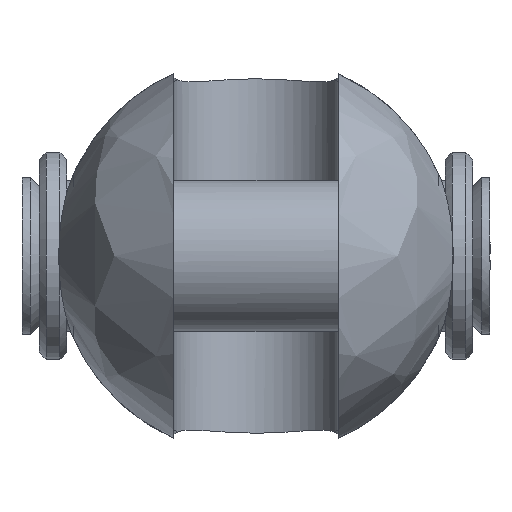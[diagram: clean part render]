
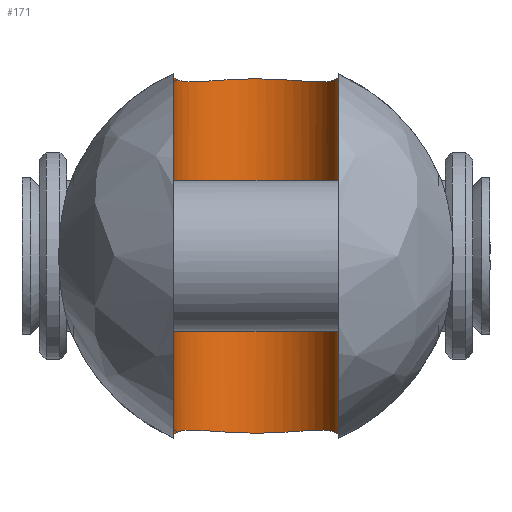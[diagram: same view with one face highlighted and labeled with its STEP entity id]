
A CAD part, left-side view. The second image highlights one B-rep face of the part: STEP entity #171.
In plain terms, the highlighted cylindrical face has radius 6 mm (diameter 12 mm), a partial arc.
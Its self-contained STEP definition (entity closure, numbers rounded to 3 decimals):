
#171=ADVANCED_FACE('',(#312),#2366,.F.);
#312=FACE_OUTER_BOUND('',#471,.T.);
#471=EDGE_LOOP('',(#1120,#1121,#1122,#1123,#1124,#1125,#1126,#1127));
#1120=ORIENTED_EDGE('',*,*,#1568,.F.);
#1121=ORIENTED_EDGE('',*,*,#1569,.F.);
#1122=ORIENTED_EDGE('',*,*,#1585,.F.);
#1123=ORIENTED_EDGE('',*,*,#1570,.F.);
#1124=ORIENTED_EDGE('',*,*,#1571,.F.);
#1125=ORIENTED_EDGE('',*,*,#1572,.F.);
#1126=ORIENTED_EDGE('',*,*,#1588,.F.);
#1127=ORIENTED_EDGE('',*,*,#1567,.F.);
#1567=EDGE_CURVE('',#2233,#2234,#1759,.T.);
#1568=EDGE_CURVE('',#2235,#2233,#1760,.T.);
#1569=EDGE_CURVE('',#2236,#2235,#1761,.T.);
#1570=EDGE_CURVE('',#2238,#2237,#1762,.T.);
#1571=EDGE_CURVE('',#2239,#2238,#1763,.T.);
#1572=EDGE_CURVE('',#2240,#2239,#1764,.T.);
#1585=EDGE_CURVE('',#2237,#2236,#1769,.T.);
#1588=EDGE_CURVE('',#2234,#2240,#1770,.T.);
#1759=B_SPLINE_CURVE_WITH_KNOTS('',3,(#5866,#5867,#5868,#5869),
 .UNSPECIFIED.,.F.,.F.,(4,4),(-1.975,0.),.UNSPECIFIED.);
#1760=B_SPLINE_CURVE_WITH_KNOTS('',1,(#5870,#5871),.UNSPECIFIED.,.F.,.F.,
(2,2),(-26.101,0.),.UNSPECIFIED.);
#1761=B_SPLINE_CURVE_WITH_KNOTS('',3,(#5872,#5873,#5874,#5875),
 .UNSPECIFIED.,.F.,.F.,(4,4),(-1.975,0.),.UNSPECIFIED.);
#1762=B_SPLINE_CURVE_WITH_KNOTS('',3,(#5876,#5877,#5878,#5879),
 .UNSPECIFIED.,.F.,.F.,(4,4),(-1.975,0.),.UNSPECIFIED.);
#1763=B_SPLINE_CURVE_WITH_KNOTS('',1,(#5880,#5881),.UNSPECIFIED.,.F.,.F.,
(2,2),(-26.101,0.),.UNSPECIFIED.);
#1764=B_SPLINE_CURVE_WITH_KNOTS('',3,(#5882,#5883,#5884,#5885),
 .UNSPECIFIED.,.F.,.F.,(4,4),(-1.975,0.),.UNSPECIFIED.);
#1769=B_SPLINE_CURVE_WITH_KNOTS('',3,(#5922,#5923,#5924,#5925,#5926,#5927,
#5928,#5929,#5930,#5931,#5932,#5933,#5934,#5935,#5936,#5937,#5938,#5939),
 .UNSPECIFIED.,.F.,.F.,(4,2,2,2,2,2,2,2,4),(0.,0.899,3.1,
5.316,7.531,9.746,11.961,14.162,
15.061),.UNSPECIFIED.);
#1770=B_SPLINE_CURVE_WITH_KNOTS('',3,(#5946,#5947,#5948,#5949,#5950,#5951,
#5952,#5953,#5954,#5955,#5956,#5957,#5958,#5959,#5960,#5961,#5962,#5963),
 .UNSPECIFIED.,.F.,.F.,(4,2,2,2,2,2,2,2,4),(0.,0.899,3.1,
5.316,7.531,9.746,11.961,14.162,
15.061),.UNSPECIFIED.);
#2233=VERTEX_POINT('',#5752);
#2234=VERTEX_POINT('',#5753);
#2235=VERTEX_POINT('',#5754);
#2236=VERTEX_POINT('',#5755);
#2237=VERTEX_POINT('',#5756);
#2238=VERTEX_POINT('',#5757);
#2239=VERTEX_POINT('',#5758);
#2240=VERTEX_POINT('',#5759);
#2366=CYLINDRICAL_SURFACE('',#2589,6.);
#2589=AXIS2_PLACEMENT_3D('',#5363,#2692,$);
#2692=DIRECTION('',(0.,0.,1.));
#5363=CARTESIAN_POINT('',(20.,0.,0.));
#5752=CARTESIAN_POINT('',(20.,6.,13.05));
#5753=CARTESIAN_POINT('',(21.911,5.688,12.757));
#5754=CARTESIAN_POINT('',(20.,6.,-13.05));
#5755=CARTESIAN_POINT('',(21.911,5.688,-12.757));
#5756=CARTESIAN_POINT('',(21.911,-5.688,-12.757));
#5757=CARTESIAN_POINT('',(20.,-6.,-13.05));
#5758=CARTESIAN_POINT('',(20.,-6.,13.05));
#5759=CARTESIAN_POINT('',(21.911,-5.688,12.757));
#5866=CARTESIAN_POINT('',(20.,6.,13.05));
#5867=CARTESIAN_POINT('',(20.624,6.,12.956));
#5868=CARTESIAN_POINT('',(21.283,5.899,12.854));
#5869=CARTESIAN_POINT('',(21.911,5.688,12.757));
#5870=CARTESIAN_POINT('',(20.,6.,-13.05));
#5871=CARTESIAN_POINT('',(20.,6.,13.05));
#5872=CARTESIAN_POINT('',(21.911,5.688,-12.757));
#5873=CARTESIAN_POINT('',(21.283,5.899,-12.854));
#5874=CARTESIAN_POINT('',(20.624,6.,-12.956));
#5875=CARTESIAN_POINT('',(20.,6.,-13.05));
#5876=CARTESIAN_POINT('',(20.,-6.,-13.05));
#5877=CARTESIAN_POINT('',(20.624,-6.,-12.956));
#5878=CARTESIAN_POINT('',(21.283,-5.899,-12.854));
#5879=CARTESIAN_POINT('',(21.911,-5.688,-12.757));
#5880=CARTESIAN_POINT('',(20.,-6.,13.05));
#5881=CARTESIAN_POINT('',(20.,-6.,-13.05));
#5882=CARTESIAN_POINT('',(21.911,-5.688,12.757));
#5883=CARTESIAN_POINT('',(21.283,-5.899,12.854));
#5884=CARTESIAN_POINT('',(20.624,-6.,12.956));
#5885=CARTESIAN_POINT('',(20.,-6.,13.05));
#5922=CARTESIAN_POINT('',(21.911,-5.688,-12.757));
#5923=CARTESIAN_POINT('',(22.193,-5.593,-12.713));
#5924=CARTESIAN_POINT('',(22.471,-5.476,-12.68));
#5925=CARTESIAN_POINT('',(23.397,-5.,-12.6));
#5926=CARTESIAN_POINT('',(23.994,-4.532,-12.606));
#5927=CARTESIAN_POINT('',(24.929,-3.492,-12.663));
#5928=CARTESIAN_POINT('',(25.334,-2.848,-12.716));
#5929=CARTESIAN_POINT('',(25.869,-1.453,-12.8));
#5930=CARTESIAN_POINT('',(26.,-0.702,-12.827));
#5931=CARTESIAN_POINT('',(26.,0.702,-12.827));
#5932=CARTESIAN_POINT('',(25.869,1.453,-12.8));
#5933=CARTESIAN_POINT('',(25.334,2.848,-12.716));
#5934=CARTESIAN_POINT('',(24.929,3.492,-12.663));
#5935=CARTESIAN_POINT('',(23.994,4.532,-12.606));
#5936=CARTESIAN_POINT('',(23.397,5.,-12.6));
#5937=CARTESIAN_POINT('',(22.471,5.476,-12.68));
#5938=CARTESIAN_POINT('',(22.193,5.593,-12.713));
#5939=CARTESIAN_POINT('',(21.911,5.688,-12.757));
#5946=CARTESIAN_POINT('',(21.911,5.688,12.757));
#5947=CARTESIAN_POINT('',(22.193,5.593,12.713));
#5948=CARTESIAN_POINT('',(22.471,5.476,12.68));
#5949=CARTESIAN_POINT('',(23.397,5.,12.6));
#5950=CARTESIAN_POINT('',(23.994,4.532,12.606));
#5951=CARTESIAN_POINT('',(24.929,3.492,12.663));
#5952=CARTESIAN_POINT('',(25.334,2.848,12.716));
#5953=CARTESIAN_POINT('',(25.869,1.453,12.8));
#5954=CARTESIAN_POINT('',(26.,0.702,12.827));
#5955=CARTESIAN_POINT('',(26.,-0.702,12.827));
#5956=CARTESIAN_POINT('',(25.869,-1.453,12.8));
#5957=CARTESIAN_POINT('',(25.334,-2.848,12.716));
#5958=CARTESIAN_POINT('',(24.929,-3.492,12.663));
#5959=CARTESIAN_POINT('',(23.994,-4.532,12.606));
#5960=CARTESIAN_POINT('',(23.397,-5.,12.6));
#5961=CARTESIAN_POINT('',(22.471,-5.476,12.68));
#5962=CARTESIAN_POINT('',(22.193,-5.593,12.713));
#5963=CARTESIAN_POINT('',(21.911,-5.688,12.757));
